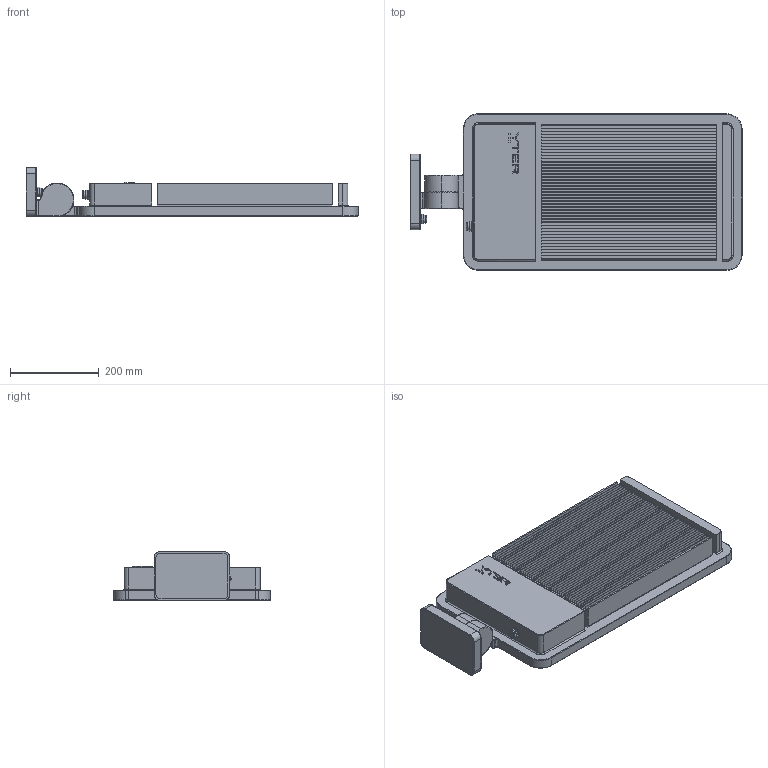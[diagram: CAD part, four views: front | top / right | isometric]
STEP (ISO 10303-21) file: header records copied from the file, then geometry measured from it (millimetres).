
FILE_DESCRIPTION(/* description */ (''),/* implementation_level */ '2;1');
FILE_NAME(/* name */ 'VERSIO~3',/* time_stamp */ '2016-09-12T19:16:22+02:00',/* author */ (''),/* organization */ (''),/* preprocessor_version */ 'ST-DEVELOPER v15',/* originating_system */ '',/* authorisation */ '');
FILE_SCHEMA (('AUTOMOTIVE_DESIGN'));
Length unit declared in the file: millimetre
Products named in the file (1): Document
Bounding box: 747.1 x 352 x 110 mm (x, y, z)
Volume: 6368050.9 mm3; surface area: 1585848.3 mm2
Topology: 23 solids, 41 shells, 683 faces, 2022 edges, 1338 vertices
Faces by surface type: plane 454, bspline 229
Entity records: 23840 total; most frequent: CARTESIAN_POINT 11271, ORIENTED_EDGE 3780, EDGE_CURVE 2022, B_SPLINE_CURVE_WITH_KNOTS 1651, VERTEX_POINT 1338, EDGE_LOOP 728, ADVANCED_FACE 683, FACE_OUTER_BOUND 683
